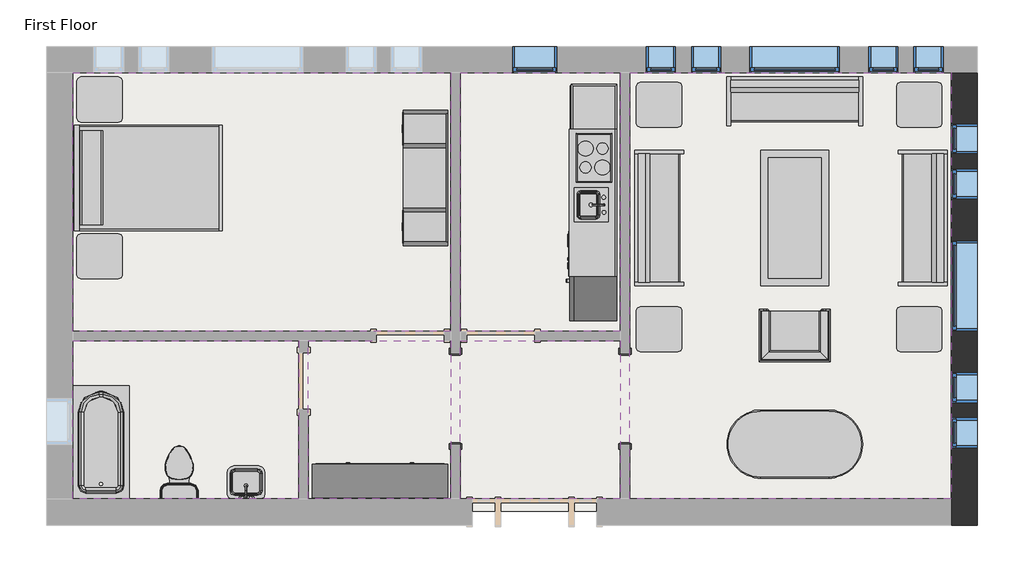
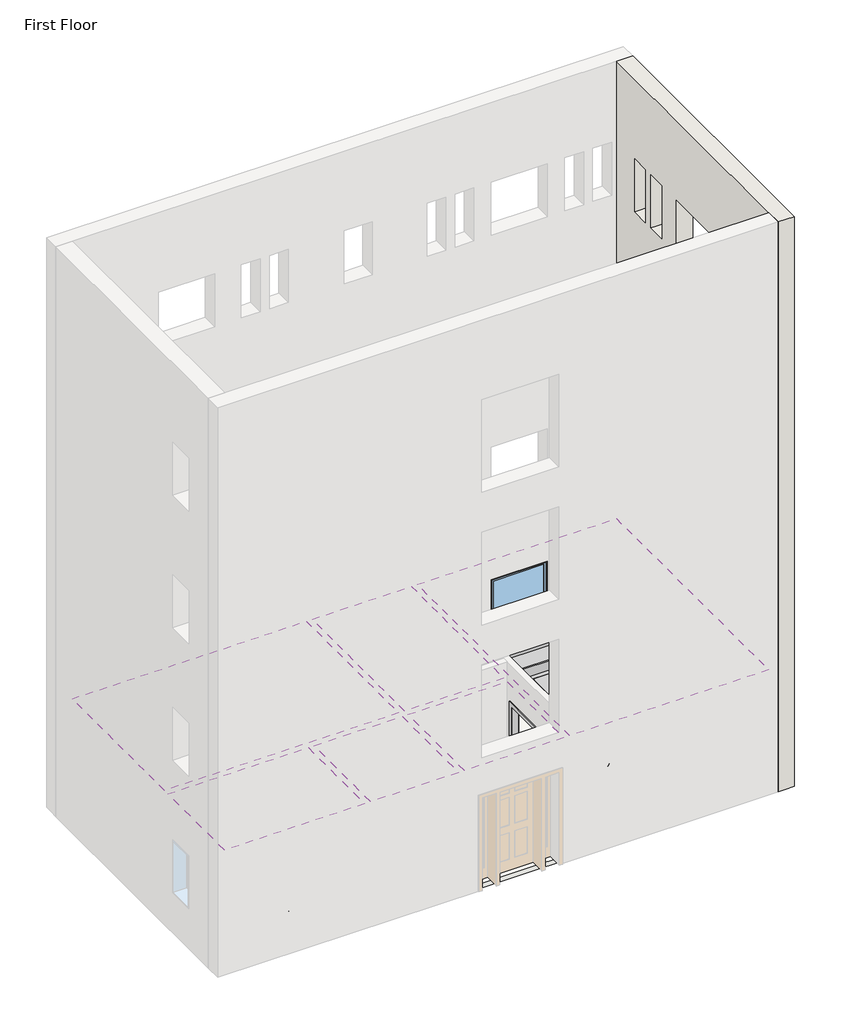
# One storey, part 2 of 2: 15 furniture elements, 11 windows, 6 coverings, 3 flow terminals, 3 proxies, 1 slab, 1 wall.
"""IFC4 building model written with IfcOpenShell, lengths in millimetres."""

from ifc_helpers import new_model, si_unit, frame, origin, place, context, project, spatial, polyline, outline, extrude, faceted_brep, transform, mapped, element, save
from components import proxy_64a468c4, proxy_f44482cc, flow_terminal_0aeb31e3, toilet_domestic_3d_toilet_domestic_3d_f7549cf7, toilet_domestic_3d_toilet_domestic_3d_183bbd19, tub_rectangular_3d_tub_rectangular_3d_0be0b2e8, furniture_096e7f55, chair_corbu_chair_corbu_2764bdef, furniture_7c473f12, furniture_ddc78764, furniture_4ef38d96, furniture_cd93a443, furniture_8c0aa46a, furniture_3a588284, furniture_1befe2a2, window_da97879f, window_d61ef850, window_60baf983, window_6eb97611

model = new_model("IFC4")

# Units and contexts
model_context = context("Model", 3, world=origin())
ifc_project = project(units=[si_unit("LENGTHUNIT", "METRE", prefix="MILLI")], contexts=[model_context])

# Site, building, storey
site = spatial("IfcSite", under=ifc_project)
building = spatial("IfcBuilding", under=site)
storey = spatial("IfcBuildingStorey", under=building, Name="First Floor", Elevation=0.0)

# Proxies
placement = place(None, origin())
proxy_shape = proxy_64a468c4(model_context)
element("IfcBuildingElementProxy", 1, Name="Kitchenette - Medium : 8'6\"", ObjectType="Kitchenette - Medium : 8'6\"", at=placement, inside=storey, context=model_context, shape_type="MappedRepresentation", body=[
    mapped(proxy_shape, transform((-3887.7589563, 8837.7956433, 0.0), x_axis=(0.0, -1.0, 0.0), y_axis=(1.0, 0.0, 0.0), z_axis=(0.0, 0.0, 1.0))),
])
proxy_2_shape = proxy_f44482cc(model_context)
element("IfcBuildingElementProxy", 2, Name="Opening-Cased : 48\" x 84\"", ObjectType="Opening-Cased : 48\" x 84\"", at=placement, inside=storey, context=model_context, shape_type="MappedRepresentation", body=[
    mapped(proxy_2_shape, transform((-3773.4589563, 5882.4203434, 0.0), x_axis=(0.0, 1.0, 0.0), y_axis=(-1.0, 0.0, 0.0), z_axis=(0.0, 0.0, 1.0))),
])
element("IfcBuildingElementProxy", 3, Name="Opening-Cased : 48\" x 84\"", ObjectType="Opening-Cased : 48\" x 84\"", at=placement, inside=storey, context=model_context, shape_type="MappedRepresentation", body=[
    mapped(proxy_2_shape, transform((-6059.4589563, 5866.04303, 0.0), x_axis=(0.0, -1.0, 0.0), y_axis=(1.0, 0.0, 0.0), z_axis=(0.0, 0.0, 1.0))),
])

# Coverings
element("IfcCovering", 4, ObjectType="GWB on Mtl. Stud", at=placement, inside=storey, context=model_context, shape_type="SweptSolid", body=[
    extrude(outline(polyline([(-11217.2464563, 10270.0191867), (-6122.9589563, 10270.0191867), (-6122.9589563, 6787.0441867), (-11217.2464563, 6787.0441867), (-11217.2464563, 10270.0191867)])), frame((0.0, 0.0, 2590.8), z_axis=(0.0, 0.0, 1.0), x_axis=(1.0, 0.0, 0.0)), (0.0, 0.0, 1.0), 107.95),
])
element("IfcCovering", 5, ObjectType="GWB on Mtl. Stud", at=placement, inside=storey, context=model_context, shape_type="SweptSolid", body=[
    extrude(outline(polyline([(-5995.9589563, 6787.0441867), (-5995.9589563, 10270.0191867), (-3836.9589563, 10270.0191867), (-3836.9589563, 6787.0441867), (-5995.9589563, 6787.0441867)])), frame((0.0, 0.0, 2590.8), z_axis=(0.0, 0.0, 1.0), x_axis=(1.0, 0.0, 0.0)), (0.0, 0.0, 1.0), 107.95),
])
element("IfcCovering", 6, ObjectType="GWB on Mtl. Stud", at=placement, inside=storey, context=model_context, shape_type="SweptSolid", body=[
    extrude(outline(polyline([(-3709.9589563, 4526.4441867), (-3709.9589563, 10270.0191867), (622.3285437, 10270.0191867), (622.3285437, 4526.4441867), (-3709.9589563, 4526.4441867)])), frame((0.0, 0.0, 2590.8), z_axis=(0.0, 0.0, 1.0), x_axis=(1.0, 0.0, 0.0)), (0.0, 0.0, 1.0), 107.95),
])
element("IfcCovering", 7, ObjectType="GWB on Mtl. Stud", at=placement, inside=storey, context=model_context, shape_type="SweptSolid", body=[
    extrude(outline(polyline([(-3836.9589563, 4526.4441867), (-5995.9589563, 4526.4441867), (-5995.9589563, 6660.0441867), (-3836.9589563, 6660.0441867), (-3836.9589563, 4526.4441867)])), frame((0.0, 0.0, 2590.8), z_axis=(0.0, 0.0, 1.0), x_axis=(1.0, 0.0, 0.0)), (0.0, 0.0, 1.0), 107.95),
])
element("IfcCovering", 8, ObjectType="GWB on Mtl. Stud", at=placement, inside=storey, context=model_context, shape_type="SweptSolid", body=[
    extrude(outline(polyline([(-6122.9589563, 4526.4441867), (-8042.2464563, 4526.4441867), (-8042.2464563, 6660.0441867), (-6122.9589563, 6660.0441867), (-6122.9589563, 4526.4441867)])), frame((0.0, 0.0, 2590.8), z_axis=(0.0, 0.0, 1.0), x_axis=(1.0, 0.0, 0.0)), (0.0, 0.0, 1.0), 107.95),
])
element("IfcCovering", 9, ObjectType="GWB on Mtl. Stud", at=placement, inside=storey, context=model_context, shape_type="SweptSolid", body=[
    extrude(outline(polyline([(-8169.2464563, 6660.0441867), (-8169.2464563, 4526.4441867), (-11217.2464563, 4526.4441867), (-11217.2464563, 6660.0441867), (-8169.2464563, 6660.0441867)])), frame((0.0, 0.0, 2590.8), z_axis=(0.0, 0.0, 1.0), x_axis=(1.0, 0.0, 0.0)), (0.0, 0.0, 1.0), 107.95),
])

# Flow terminals
flow_terminal_shape = flow_terminal_0aeb31e3(model_context)
element("IfcFlowTerminal", 10, ObjectType="Sink Vanity-Square : 24\" x 19\"", at=placement, inside=storey, context=model_context, shape_type="MappedRepresentation", body=[
    mapped(flow_terminal_shape, transform((-8864.7572157, 4706.5895878, 0.0), x_axis=(-1.0, 0.0, 0.0), y_axis=(0.0, -1.0, 0.0), z_axis=(0.0, 0.0, 1.0))),
])
toilet_domestic_3d_toilet_domestic_3d_shape = toilet_domestic_3d_toilet_domestic_3d_f7549cf7(model_context)
toilet_domestic_3d_toilet_domestic_3d_2_shape = toilet_domestic_3d_toilet_domestic_3d_183bbd19(model_context)
element("IfcFlowTerminal", 11, ObjectType="Toilet-Domestic-3D : Toilet-Domestic-3D", at=placement, inside=storey, context=model_context, shape_type="MappedRepresentation", body=[
    mapped(toilet_domestic_3d_toilet_domestic_3d_shape, transform((-9782.1466587, 4940.866411, 0.0), x_axis=(-1.0000000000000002, 0.0, 0.0), y_axis=(0.0, -1.0000000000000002, 0.0), z_axis=(0.0, 0.0, 1.0))),
    mapped(toilet_domestic_3d_toilet_domestic_3d_2_shape, transform((-9782.1466587, 4940.866411, 0.0), x_axis=(-1.0000000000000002, 0.0, 0.0), y_axis=(0.0, -1.0000000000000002, 0.0), z_axis=(0.0, 0.0, 1.0))),
])
tub_rectangular_3d_tub_rectangular_3d_shape = tub_rectangular_3d_tub_rectangular_3d_0be0b2e8(model_context)
element("IfcFlowTerminal", 12, ObjectType="Tub-Rectangular-3D : Tub-Rectangular-3D", at=placement, inside=storey, context=model_context, shape_type="MappedRepresentation", body=[
    mapped(tub_rectangular_3d_tub_rectangular_3d_shape, transform((-11393.4589563, 5637.0471554, 0.0), x_axis=(0.0, 1.0, 0.0), y_axis=(-1.0, 0.0, 0.0), z_axis=(0.0, 0.0, 1.0))),
])

# Furniture
furniture_shape = furniture_096e7f55(model_context)
element("IfcFurniture", 13, ObjectType="Bed-Shaker : Double 56\" x 78\"", at=placement, inside=storey, context=model_context, shape_type="MappedRepresentation", body=[
    mapped(furniture_shape, transform((-11183.1982802, 8871.8755561, 0.0), x_axis=(0.0, 1.0, 0.0), y_axis=(-1.0, 0.0, 0.0), z_axis=(0.0, 0.0, 1.0))),
])
chair_corbu_chair_corbu_shape = chair_corbu_chair_corbu_2764bdef(model_context)
element("IfcFurniture", 14, ObjectType="Chair-Corbu : Chair-Corbu", at=placement, inside=storey, context=model_context, shape_type="MappedRepresentation", body=[
    mapped(chair_corbu_chair_corbu_shape, transform((-914.0851858, 7193.4962359, 0.0), x_axis=(-1.0, 0.0, 0.0), y_axis=(0.0, -1.0, 0.0), z_axis=(0.0, 0.0, 1.0))),
])
furniture_2_shape = furniture_7c473f12(model_context)
element("IfcFurniture", 15, ObjectType="Dresser : 72\" x 60\" x 18\"", at=placement, inside=storey, context=model_context, shape_type="MappedRepresentation", body=[
    mapped(furniture_2_shape, transform((-7344.6522161, 4404.5812326, 0.0), x_axis=(-1.0, 0.0, 0.0), y_axis=(0.0, -1.0, 0.0), z_axis=(0.0, 0.0, 1.0))),
])
furniture_3_shape = furniture_ddc78764(model_context)
element("IfcFurniture", 16, ObjectType="Entertainment Center : 72\" x 72\" x 24\"", at=placement, inside=storey, context=model_context, shape_type="MappedRepresentation", body=[
    mapped(furniture_3_shape, transform((-6059.4589563, 8852.8255561, 0.0), x_axis=(0.0, -1.0, 0.0), y_axis=(1.0, 0.0, 0.0), z_axis=(0.0, 0.0, 1.0))),
])
furniture_4_shape = furniture_4ef38d96(model_context)
element("IfcFurniture", 17, ObjectType="Sofa : 72\"", at=placement, inside=storey, context=model_context, shape_type="MappedRepresentation", body=[
    mapped(furniture_4_shape, transform((-1557.8294481, 9741.2775883, 0.0), x_axis=(1.0, 0.0, 0.0), y_axis=(0.0, 1.0, 0.0), z_axis=(0.0, 0.0, 1.0))),
])
element("IfcFurniture", 18, ObjectType="Sofa : 72\"", at=placement, inside=storey, context=model_context, shape_type="MappedRepresentation", body=[
    mapped(furniture_4_shape, transform((93.5869453, 8383.0021785, 0.0), x_axis=(0.0, -1.0, 0.0), y_axis=(1.0, 0.0, 0.0), z_axis=(0.0, 0.0, 1.0))),
])
element("IfcFurniture", 19, ObjectType="Sofa : 72\"", at=placement, inside=storey, context=model_context, shape_type="MappedRepresentation", body=[
    mapped(furniture_4_shape, transform((-3170.104858, 8242.2611949, 0.0), x_axis=(0.0, 1.0, 0.0), y_axis=(-1.0, 0.0, 0.0), z_axis=(0.0, 0.0, 1.0))),
])
furniture_5_shape = furniture_cd93a443(model_context)
element("IfcFurniture", 20, ObjectType="Table-Coffee : 36\" x 72\" x 18\"", at=placement, inside=storey, context=model_context, shape_type="MappedRepresentation", body=[
    mapped(furniture_5_shape, transform((-1582.6700341, 8330.8974534, 0.0), x_axis=(0.0, -1.0, 0.0), y_axis=(1.0, 0.0, 0.0), z_axis=(0.0, 0.0, 1.0))),
])
furniture_6_shape = furniture_8c0aa46a(model_context)
element("IfcFurniture", 21, ObjectType="Table-Dining Oval : 36\" x 72\"", at=placement, inside=storey, context=model_context, shape_type="MappedRepresentation", body=[
    mapped(furniture_6_shape, transform((-1085.6392842, 5622.7300473, 0.0), x_axis=(1.0, 0.0, 0.0), y_axis=(0.0, 1.0, 0.0), z_axis=(0.0, 0.0, 1.0))),
])
furniture_7_shape = furniture_3a588284(model_context)
element("IfcFurniture", 22, ObjectType="Table-End : 24\" x 24\"", at=placement, inside=storey, context=model_context, shape_type="MappedRepresentation", body=[
    mapped(furniture_7_shape, transform((-119.5925866, 9684.2316867, 0.0), x_axis=(1.0, 0.0, 0.0), y_axis=(0.0, 1.0, 0.0), z_axis=(0.0, 0.0, 1.0))),
])
element("IfcFurniture", 23, ObjectType="Table-End : 24\" x 24\"", at=placement, inside=storey, context=model_context, shape_type="MappedRepresentation", body=[
    mapped(furniture_7_shape, transform((-3624.7925866, 9684.2316867, 0.0), x_axis=(1.0, 0.0, 0.0), y_axis=(0.0, 1.0, 0.0), z_axis=(0.0, 0.0, 1.0))),
])
element("IfcFurniture", 24, ObjectType="Table-End : 24\" x 24\"", at=placement, inside=storey, context=model_context, shape_type="MappedRepresentation", body=[
    mapped(furniture_7_shape, transform((-3624.7925866, 6660.0441867, 0.0), x_axis=(1.0, 0.0, 0.0), y_axis=(0.0, 1.0, 0.0), z_axis=(0.0, 0.0, 1.0))),
])
element("IfcFurniture", 25, ObjectType="Table-End : 24\" x 24\"", at=placement, inside=storey, context=model_context, shape_type="MappedRepresentation", body=[
    mapped(furniture_7_shape, transform((-119.5925866, 6660.0441867, 0.0), x_axis=(1.0, 0.0, 0.0), y_axis=(0.0, 1.0, 0.0), z_axis=(0.0, 0.0, 1.0))),
])
element("IfcFurniture", 26, ObjectType="Table-End : 24\" x 24\"", at=placement, inside=storey, context=model_context, shape_type="MappedRepresentation", body=[
    mapped(furniture_7_shape, transform((-11164.2346356, 9756.0737357, 0.0), x_axis=(1.0, 0.0, 0.0), y_axis=(0.0, 1.0, 0.0), z_axis=(0.0, 0.0, 1.0))),
])
furniture_8_shape = furniture_1befe2a2(model_context)
element("IfcFurniture", 27, ObjectType="Table-End : 24\" x 24\"", at=placement, inside=storey, context=model_context, shape_type="MappedRepresentation", body=[
    mapped(furniture_8_shape, transform((-11164.2346356, 7949.5773764, 0.0), x_axis=(1.0, 0.0, 0.0), y_axis=(0.0, 1.0, 0.0), z_axis=(0.0, 0.0, 1.0))),
])

# Slab
element("IfcSlab", 28, ObjectType="LW Concrete on Metal Deck", at=placement, inside=storey, context=model_context, shape_type="SweptSolid", body=[
    extrude(outline(polyline([(787.4285437, 10435.1191867), (787.4285437, 4361.3441867), (-11382.3464563, 4361.3441867), (-11382.3464563, 10435.1191867), (787.4285437, 10435.1191867)])), frame((0.0, 0.0, -104.775), z_axis=(0.0, 0.0, 1.0), x_axis=(1.0, 0.0, 0.0)), (0.0, 0.0, 1.0), 104.775),
])

# Wall
element("IfcWall", 29, ObjectType="Exterior - Brick on Mtl. Stud", at=placement, inside=storey, context=model_context, shape_type="Brep", body=[
    faceted_brep([(622.3285437, 10270.0191867, 0.0), (622.3285437, 4526.4441867, 0.0), (622.3285437, 4361.3441867, 0.0), (622.3285437, 4174.0191867, 0.0), (622.3285437, 4174.0191867, 13106.4), (622.3285437, 4526.4441867, 13106.4), (622.3285437, 10270.0191867, 13106.4), (622.3285437, 8007.8316867, 2133.6), (622.3285437, 6788.6316867, 2133.6), (622.3285437, 6788.6316867, 914.4), (622.3285437, 8007.8316867, 914.4), (622.3285437, 9582.6316867, 2133.6), (622.3285437, 9176.2316867, 2133.6), (622.3285437, 9176.2316867, 914.4), (622.3285437, 9582.6316867, 914.4), (622.3285437, 8973.0316867, 2133.6), (622.3285437, 8566.6316867, 2133.6), (622.3285437, 8566.6316867, 914.4), (622.3285437, 8973.0316867, 914.4), (622.3285437, 5213.8316867, 2133.6), (622.3285437, 5213.8316867, 914.4), (622.3285437, 5620.2316867, 914.4), (622.3285437, 5620.2316867, 2133.6), (622.3285437, 5823.4316867, 2133.6), (622.3285437, 5823.4316867, 914.4), (622.3285437, 6229.8316867, 914.4), (622.3285437, 6229.8316867, 2133.6), (622.3285437, 8007.8316867, 11277.6), (622.3285437, 6788.6316867, 11277.6), (622.3285437, 6788.6316867, 10058.4), (622.3285437, 8007.8316867, 10058.4), (622.3285437, 9582.6316867, 11277.6), (622.3285437, 9176.2316867, 11277.6), (622.3285437, 9176.2316867, 10058.4), (622.3285437, 9582.6316867, 10058.4), (622.3285437, 8973.0316867, 11277.6), (622.3285437, 8566.6316867, 11277.6), (622.3285437, 8566.6316867, 10058.4), (622.3285437, 8973.0316867, 10058.4), (622.3285437, 5213.8316867, 11277.6), (622.3285437, 5213.8316867, 10058.4), (622.3285437, 5620.2316867, 10058.4), (622.3285437, 5620.2316867, 11277.6), (622.3285437, 5823.4316867, 11277.6), (622.3285437, 5823.4316867, 10058.4), (622.3285437, 6229.8316867, 10058.4), (622.3285437, 6229.8316867, 11277.6), (622.3285437, 8007.8316867, 5181.6), (622.3285437, 6788.6316867, 5181.6), (622.3285437, 6788.6316867, 3962.4), (622.3285437, 8007.8316867, 3962.4), (622.3285437, 9582.6316867, 5181.6), (622.3285437, 9176.2316867, 5181.6), (622.3285437, 9176.2316867, 3962.4), (622.3285437, 9582.6316867, 3962.4), (622.3285437, 8973.0316867, 5181.6), (622.3285437, 8566.6316867, 5181.6), (622.3285437, 8566.6316867, 3962.4), (622.3285437, 8973.0316867, 3962.4), (622.3285437, 5213.8316867, 5181.6), (622.3285437, 5213.8316867, 3962.4), (622.3285437, 5620.2316867, 3962.4), (622.3285437, 5620.2316867, 5181.6), (622.3285437, 5823.4316867, 5181.6), (622.3285437, 5823.4316867, 3962.4), (622.3285437, 6229.8316867, 3962.4), (622.3285437, 6229.8316867, 5181.6), (622.3285437, 8007.8316867, 8229.6), (622.3285437, 6788.6316867, 8229.6), (622.3285437, 6788.6316867, 7010.4), (622.3285437, 8007.8316867, 7010.4), (622.3285437, 9582.6316867, 8229.6), (622.3285437, 9176.2316867, 8229.6), (622.3285437, 9176.2316867, 7010.4), (622.3285437, 9582.6316867, 7010.4), (622.3285437, 8973.0316867, 8229.6), (622.3285437, 8566.6316867, 8229.6), (622.3285437, 8566.6316867, 7010.4), (622.3285437, 8973.0316867, 7010.4), (622.3285437, 5213.8316867, 8229.6), (622.3285437, 5213.8316867, 7010.4), (622.3285437, 5620.2316867, 7010.4), (622.3285437, 5620.2316867, 8229.6), (622.3285437, 5823.4316867, 8229.6), (622.3285437, 5823.4316867, 7010.4), (622.3285437, 6229.8316867, 7010.4), (622.3285437, 6229.8316867, 8229.6), (974.7535437, 10270.0191867, 0.0), (974.7535437, 10270.0191867, 13106.4), (974.7535437, 4174.0191867, 13106.4), (974.7535437, 4174.0191867, 0.0), (974.7535437, 4361.3441867, 0.0), (974.7535437, 8007.8316867, 2133.6), (974.7535437, 8007.8316867, 914.4), (974.7535437, 6788.6316867, 914.4), (974.7535437, 6788.6316867, 2133.6), (974.7535437, 9582.6316867, 2133.6), (974.7535437, 9582.6316867, 914.4), (974.7535437, 9176.2316867, 914.4), (974.7535437, 9176.2316867, 2133.6), (974.7535437, 8973.0316867, 2133.6), (974.7535437, 8973.0316867, 914.4), (974.7535437, 8566.6316867, 914.4), (974.7535437, 8566.6316867, 2133.6), (974.7535437, 5213.8316867, 2133.6), (974.7535437, 5620.2316867, 2133.6), (974.7535437, 5620.2316867, 914.4), (974.7535437, 5213.8316867, 914.4), (974.7535437, 5823.4316867, 2133.6), (974.7535437, 6229.8316867, 2133.6), (974.7535437, 6229.8316867, 914.4), (974.7535437, 5823.4316867, 914.4), (974.7535437, 8007.8316867, 11277.6), (974.7535437, 8007.8316867, 10058.4), (974.7535437, 6788.6316867, 10058.4), (974.7535437, 6788.6316867, 11277.6), (974.7535437, 9582.6316867, 11277.6), (974.7535437, 9582.6316867, 10058.4), (974.7535437, 9176.2316867, 10058.4), (974.7535437, 9176.2316867, 11277.6), (974.7535437, 8973.0316867, 11277.6), (974.7535437, 8973.0316867, 10058.4), (974.7535437, 8566.6316867, 10058.4), (974.7535437, 8566.6316867, 11277.6), (974.7535437, 5213.8316867, 11277.6), (974.7535437, 5620.2316867, 11277.6), (974.7535437, 5620.2316867, 10058.4), (974.7535437, 5213.8316867, 10058.4), (974.7535437, 5823.4316867, 11277.6), (974.7535437, 6229.8316867, 11277.6), (974.7535437, 6229.8316867, 10058.4), (974.7535437, 5823.4316867, 10058.4), (974.7535437, 8007.8316867, 5181.6), (974.7535437, 8007.8316867, 3962.4), (974.7535437, 6788.6316867, 3962.4), (974.7535437, 6788.6316867, 5181.6), (974.7535437, 9582.6316867, 5181.6), (974.7535437, 9582.6316867, 3962.4), (974.7535437, 9176.2316867, 3962.4), (974.7535437, 9176.2316867, 5181.6), (974.7535437, 8973.0316867, 5181.6), (974.7535437, 8973.0316867, 3962.4), (974.7535437, 8566.6316867, 3962.4), (974.7535437, 8566.6316867, 5181.6), (974.7535437, 5213.8316867, 5181.6), (974.7535437, 5620.2316867, 5181.6), (974.7535437, 5620.2316867, 3962.4), (974.7535437, 5213.8316867, 3962.4), (974.7535437, 5823.4316867, 5181.6), (974.7535437, 6229.8316867, 5181.6), (974.7535437, 6229.8316867, 3962.4), (974.7535437, 5823.4316867, 3962.4), (974.7535437, 8007.8316867, 8229.6), (974.7535437, 8007.8316867, 7010.4), (974.7535437, 6788.6316867, 7010.4), (974.7535437, 6788.6316867, 8229.6), (974.7535437, 9582.6316867, 8229.6), (974.7535437, 9582.6316867, 7010.4), (974.7535437, 9176.2316867, 7010.4), (974.7535437, 9176.2316867, 8229.6), (974.7535437, 8973.0316867, 8229.6), (974.7535437, 8973.0316867, 7010.4), (974.7535437, 8566.6316867, 7010.4), (974.7535437, 8566.6316867, 8229.6), (974.7535437, 5213.8316867, 8229.6), (974.7535437, 5620.2316867, 8229.6), (974.7535437, 5620.2316867, 7010.4), (974.7535437, 5213.8316867, 7010.4), (974.7535437, 5823.4316867, 8229.6), (974.7535437, 6229.8316867, 8229.6), (974.7535437, 6229.8316867, 7010.4), (974.7535437, 5823.4316867, 7010.4), (787.4285437, 4174.0191867, 0.0), (787.4285437, 10270.0191867, 0.0), (787.4285437, 4361.3441867, 0.0)], [[[0, 1, 2, 3, 4, 5, 6], [7, 8, 9, 10], [11, 12, 13, 14], [15, 16, 17, 18], [19, 20, 21, 22], [23, 24, 25, 26], [27, 28, 29, 30], [31, 32, 33, 34], [35, 36, 37, 38], [39, 40, 41, 42], [43, 44, 45, 46], [47, 48, 49, 50], [51, 52, 53, 54], [55, 56, 57, 58], [59, 60, 61, 62], [63, 64, 65, 66], [67, 68, 69, 70], [71, 72, 73, 74], [75, 76, 77, 78], [79, 80, 81, 82], [83, 84, 85, 86]], [[87, 88, 89, 90, 91], [92, 93, 94, 95], [96, 97, 98, 99], [100, 101, 102, 103], [104, 105, 106, 107], [108, 109, 110, 111], [112, 113, 114, 115], [116, 117, 118, 119], [120, 121, 122, 123], [124, 125, 126, 127], [128, 129, 130, 131], [132, 133, 134, 135], [136, 137, 138, 139], [140, 141, 142, 143], [144, 145, 146, 147], [148, 149, 150, 151], [152, 153, 154, 155], [156, 157, 158, 159], [160, 161, 162, 163], [164, 165, 166, 167], [168, 169, 170, 171]], [[6, 5, 4, 89, 88]], [[4, 3, 172, 90, 89]], [[0, 6, 88, 87, 173]], [[173, 87, 91, 174]], [[3, 2, 174, 172]], [[174, 91, 90, 172]], [[2, 1, 0, 173, 174]], [[93, 92, 7, 10]], [[94, 93, 10, 9]], [[95, 94, 9, 8]], [[92, 95, 8, 7]], [[97, 96, 11, 14]], [[98, 97, 14, 13]], [[99, 98, 13, 12]], [[96, 99, 12, 11]], [[101, 100, 15, 18]], [[102, 101, 18, 17]], [[103, 102, 17, 16]], [[100, 103, 16, 15]], [[20, 19, 104, 107]], [[21, 20, 107, 106]], [[22, 21, 106, 105]], [[19, 22, 105, 104]], [[24, 23, 108, 111]], [[25, 24, 111, 110]], [[26, 25, 110, 109]], [[23, 26, 109, 108]], [[113, 112, 27, 30]], [[114, 113, 30, 29]], [[115, 114, 29, 28]], [[112, 115, 28, 27]], [[117, 116, 31, 34]], [[118, 117, 34, 33]], [[119, 118, 33, 32]], [[116, 119, 32, 31]], [[121, 120, 35, 38]], [[122, 121, 38, 37]], [[123, 122, 37, 36]], [[120, 123, 36, 35]], [[40, 39, 124, 127]], [[41, 40, 127, 126]], [[42, 41, 126, 125]], [[39, 42, 125, 124]], [[44, 43, 128, 131]], [[45, 44, 131, 130]], [[46, 45, 130, 129]], [[43, 46, 129, 128]], [[133, 132, 47, 50]], [[134, 133, 50, 49]], [[135, 134, 49, 48]], [[132, 135, 48, 47]], [[137, 136, 51, 54]], [[138, 137, 54, 53]], [[139, 138, 53, 52]], [[136, 139, 52, 51]], [[141, 140, 55, 58]], [[142, 141, 58, 57]], [[143, 142, 57, 56]], [[140, 143, 56, 55]], [[60, 59, 144, 147]], [[61, 60, 147, 146]], [[62, 61, 146, 145]], [[59, 62, 145, 144]], [[64, 63, 148, 151]], [[65, 64, 151, 150]], [[66, 65, 150, 149]], [[63, 66, 149, 148]], [[153, 152, 67, 70]], [[154, 153, 70, 69]], [[155, 154, 69, 68]], [[152, 155, 68, 67]], [[157, 156, 71, 74]], [[158, 157, 74, 73]], [[159, 158, 73, 72]], [[156, 159, 72, 71]], [[161, 160, 75, 78]], [[162, 161, 78, 77]], [[163, 162, 77, 76]], [[160, 163, 76, 75]], [[80, 79, 164, 167]], [[81, 80, 167, 166]], [[82, 81, 166, 165]], [[79, 82, 165, 164]], [[84, 83, 168, 171]], [[85, 84, 171, 170]], [[86, 85, 170, 169]], [[83, 86, 169, 168]]]),
])

# Windows
window_shape = window_da97879f(model_context)
element("IfcWindow", 30, ObjectType="Fixed : 16\" x 48\"", at=placement, inside=storey, context=model_context, shape_type="MappedRepresentation", body=[
    mapped(window_shape, transform((-3328.9589563, 10446.2316867, 0.0), x_axis=(-1.0, 0.0, 0.0), y_axis=(0.0, -1.0, 0.0), z_axis=(0.0, 0.0, 1.0))),
])
element("IfcWindow", 31, ObjectType="Fixed : 16\" x 48\"", at=placement, inside=storey, context=model_context, shape_type="MappedRepresentation", body=[
    mapped(window_shape, transform((-2719.3589563, 10446.2316867, 0.0), x_axis=(-1.0, 0.0, 0.0), y_axis=(0.0, -1.0, 0.0), z_axis=(0.0, 0.0, 1.0))),
])
element("IfcWindow", 32, ObjectType="Fixed : 16\" x 48\"", at=placement, inside=storey, context=model_context, shape_type="MappedRepresentation", body=[
    mapped(window_shape, transform((798.5410437, 9417.5316867, 0.0), x_axis=(0.0, 1.0, 0.0), y_axis=(-1.0, 0.0, 0.0), z_axis=(0.0, 0.0, 1.0))),
])
element("IfcWindow", 33, ObjectType="Fixed : 16\" x 48\"", at=placement, inside=storey, context=model_context, shape_type="MappedRepresentation", body=[
    mapped(window_shape, transform((798.5410437, 8807.9316867, 0.0), x_axis=(0.0, 1.0, 0.0), y_axis=(-1.0, 0.0, 0.0), z_axis=(0.0, 0.0, 1.0))),
])
window_2_shape = window_d61ef850(model_context)
element("IfcWindow", 34, ObjectType="Fixed : 16\" x 48\"", at=placement, inside=storey, context=model_context, shape_type="MappedRepresentation", body=[
    mapped(window_2_shape, transform((354.0410437, 10446.2316867, 0.0), x_axis=(1.0, 0.0, 0.0), y_axis=(0.0, 1.0, 0.0), z_axis=(0.0, 0.0, 1.0))),
])
element("IfcWindow", 35, ObjectType="Fixed : 16\" x 48\"", at=placement, inside=storey, context=model_context, shape_type="MappedRepresentation", body=[
    mapped(window_2_shape, transform((-255.5589563, 10446.2316867, 0.0), x_axis=(1.0, 0.0, 0.0), y_axis=(0.0, 1.0, 0.0), z_axis=(0.0, 0.0, 1.0))),
])
element("IfcWindow", 36, ObjectType="Fixed : 16\" x 48\"", at=placement, inside=storey, context=model_context, shape_type="MappedRepresentation", body=[
    mapped(window_2_shape, transform((798.5410437, 5378.9316867, 0.0), x_axis=(0.0, -1.0, 0.0), y_axis=(1.0, 0.0, 0.0), z_axis=(0.0, 0.0, 1.0))),
])
element("IfcWindow", 37, ObjectType="Fixed : 16\" x 48\"", at=placement, inside=storey, context=model_context, shape_type="MappedRepresentation", body=[
    mapped(window_2_shape, transform((798.5410437, 5988.5316867, 0.0), x_axis=(0.0, -1.0, 0.0), y_axis=(1.0, 0.0, 0.0), z_axis=(0.0, 0.0, 1.0))),
])
window_3_shape = window_60baf983(model_context)
element("IfcWindow", 38, ObjectType="Fixed : 24\" x 48\"", at=placement, inside=storey, context=model_context, shape_type="MappedRepresentation", body=[
    mapped(window_3_shape, transform((-5030.7589563, 10446.2316867, 0.0), x_axis=(-1.0, 0.0, 0.0), y_axis=(0.0, -1.0, 0.0), z_axis=(0.0, 0.0, 1.0))),
])
window_4_shape = window_6eb97611(model_context)
element("IfcWindow", 39, ObjectType="Fixed : 48\" x 48\"", at=placement, inside=storey, context=model_context, shape_type="MappedRepresentation", body=[
    mapped(window_4_shape, transform((-1525.5589563, 10446.2316867, 0.0), x_axis=(-1.0, 0.0, 0.0), y_axis=(0.0, -1.0, 0.0), z_axis=(0.0, 0.0, 1.0))),
])
element("IfcWindow", 40, ObjectType="Fixed : 48\" x 48\"", at=placement, inside=storey, context=model_context, shape_type="MappedRepresentation", body=[
    mapped(window_4_shape, transform((798.5410437, 7436.3316867, 0.0), x_axis=(0.0, 1.0, 0.0), y_axis=(-1.0, 0.0, 0.0), z_axis=(0.0, 0.0, 1.0))),
])

save(model, "model.ifc")
